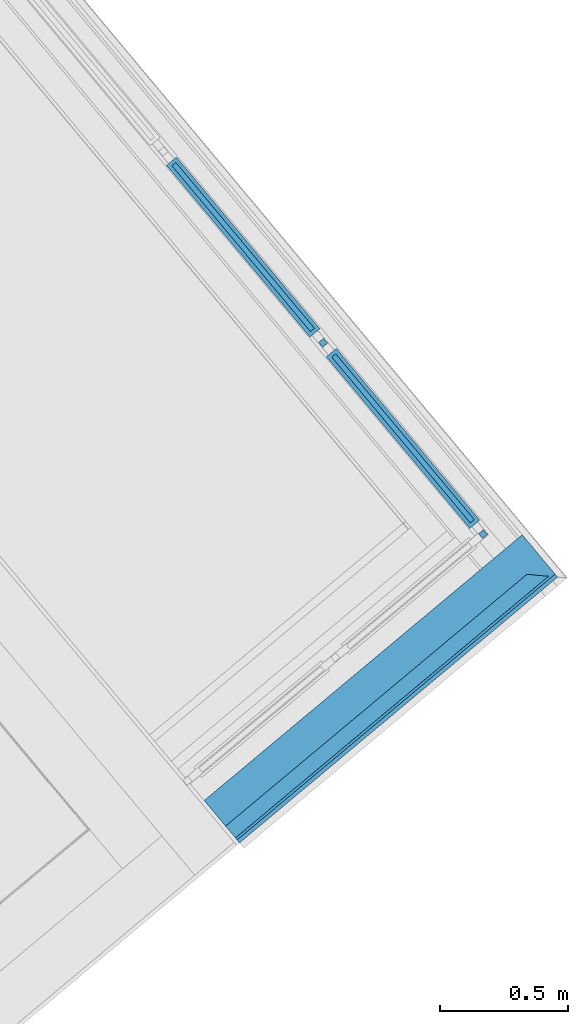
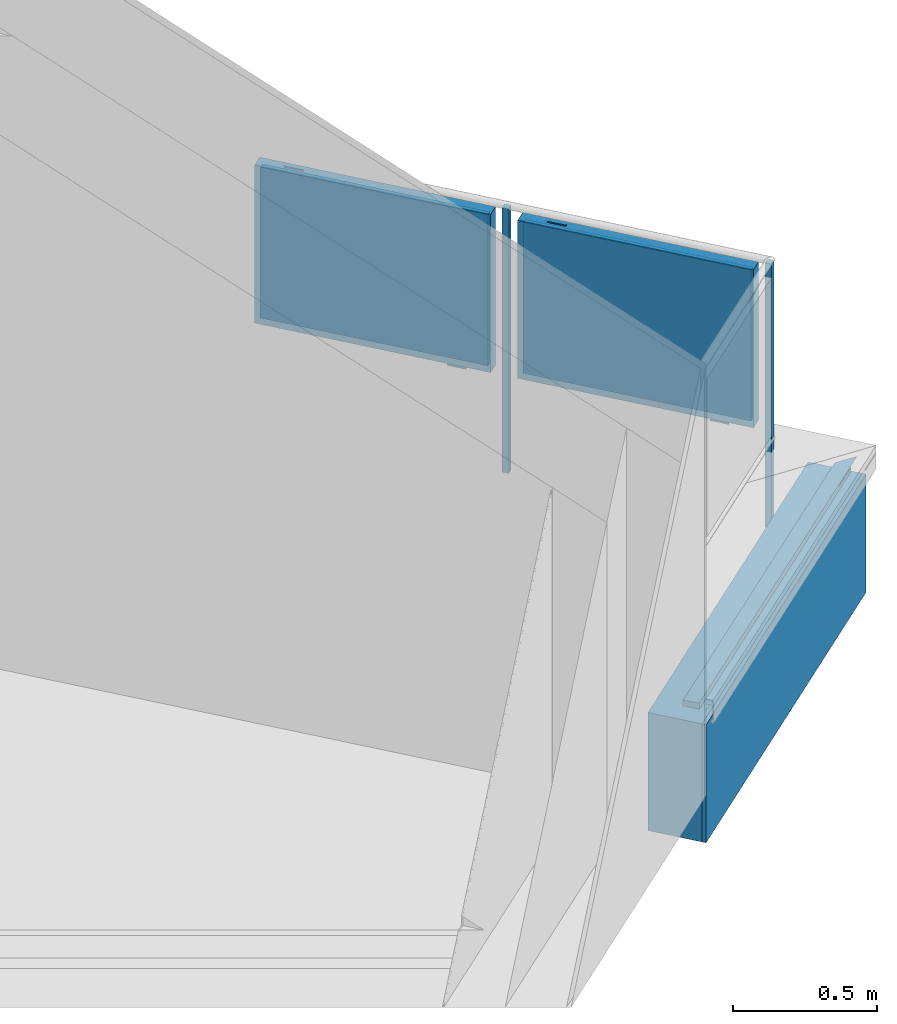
# One storey, part 33 of 61: 9 building element parts, 2 elements without a shape of their own.
"""IFC4 building model written with IfcOpenShell, lengths in metres."""

from ifc_helpers import new_model, entity, si_unit, converted_unit, derived_unit, direction, frame, origin_with_axes, place, context, subcontext, project, spatial, polygons, material, type_object, element, aggregate, save


model = new_model("IFC4")

# Units and contexts
model_context = context("Model", 3, precision=1e-05, world=origin_with_axes(), true_north=direction((0.0, 1.0)))
body_context = subcontext(model_context, "Body", "Model", "MODEL_VIEW")
ifc_project = project(units=[si_unit("LENGTHUNIT", "METRE"), si_unit("AREAUNIT", "SQUARE_METRE"), si_unit("VOLUMEUNIT", "CUBIC_METRE"), converted_unit("PLANEANGLEUNIT", "DEGREE", entity("IfcPlaneAngleMeasure", 0.0174532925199), si_unit("PLANEANGLEUNIT", "RADIAN"), dimensions=[0, 0, 0, 0, 0, 0, 0]), converted_unit("TIMEUNIT", "Year", entity("IfcTimeMeasure", 31556926.0), si_unit("TIMEUNIT", "SECOND"), dimensions=[0, 0, 1, 0, 0, 0, 0]), si_unit("MASSUNIT", "GRAM", prefix="KILO"), si_unit("THERMODYNAMICTEMPERATUREUNIT", "DEGREE_CELSIUS"), si_unit("LUMINOUSINTENSITYUNIT", "LUMEN"), si_unit("ENERGYUNIT", "JOULE", prefix="MEGA"), derived_unit("THERMALCONDUCTANCEUNIT", [(si_unit("POWERUNIT", "WATT"), 1), (si_unit("LENGTHUNIT", "METRE"), -1), (si_unit("THERMODYNAMICTEMPERATUREUNIT", "KELVIN"), -1)]), derived_unit("SPECIFICHEATCAPACITYUNIT", [(si_unit("ENERGYUNIT", "JOULE"), 1), (si_unit("MASSUNIT", "GRAM", prefix="KILO"), -1), (si_unit("THERMODYNAMICTEMPERATUREUNIT", "KELVIN"), -1)]), derived_unit("MASSDENSITYUNIT", [(si_unit("MASSUNIT", "GRAM", prefix="KILO"), 1), (si_unit("VOLUMEUNIT", "CUBIC_METRE"), -1)])], contexts=[model_context])

# Site, building, storey
site_placement = place(None, frame((-0.00153261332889, -0.00661245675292, 0.0), z_axis=(0.0, 0.0, 1.0), x_axis=(1.0, 0.0, 0.0)))
site = spatial("IfcSite", under=ifc_project, at=site_placement, Name="Gelände", CompositionType="ELEMENT")
building_placement = place(site_placement, origin_with_axes())
building = spatial("IfcBuilding", under=site, at=building_placement, Name="Gebäude", CompositionType="ELEMENT")
storey_placement = place(building_placement, frame((0.0, 0.0, 5.7), z_axis=(0.0, 0.0, 1.0), x_axis=(1.0, 0.0, 0.0)))
storey = spatial("IfcBuildingStorey", under=building, at=storey_placement, Name="DG1", CompositionType="ELEMENT", Elevation=5.7)

# Wall, building element parts
wall_type = type_object("IfcWallType", Name="Balkon Dämmung runter 574 x 610", PredefinedType="NOTDEFINED")
wall_placement = place(storey_placement, frame((13.259988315, 20.4436832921, -0.2), z_axis=(0.0, 0.0, 1.0), x_axis=(0.767365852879, 0.641209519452, 0.0)))
wall = element("IfcWall", 1, at=wall_placement, inside=storey, type_object=wall_type, Name="Wand-004", PredefinedType="NOTDEFINED")
ifc_material_1 = material(Name="EPS 1")
building_element_part_1_placement = place(wall_placement, origin_with_axes())
building_element_part_1 = element("IfcBuildingElementPart", 2, at=building_element_part_1_placement, material=ifc_material_1, Name="EPS 1", PredefinedType="NOTDEFINED", context=body_context, shape_type="Tessellation", body=[
    polygons([(1.61511881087, -0.19999996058, 0.0), (1.61511881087, -0.19999996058, 0.500000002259), (0.0, -0.19999996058, 0.499999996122), (0.0, -0.19999996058, 0.0), (1.61511962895, -2.90217805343e-09, 0.0), (1.61511962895, -2.73518629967e-09, 0.200000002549), (1.61511962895, -2.90217805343e-09, 0.500000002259), (0.0, -2.90217805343e-09, 0.500000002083), (0.0, -2.73518807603e-09, 0.200000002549), (0.0, -2.90217805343e-09, 0.0)], [[[1, 2, 3, 4]], [[2, 1, 5, 6, 7]], [[2, 7, 8, 3]], [[4, 3, 8, 9, 10]], [[5, 1, 4, 10]], [[6, 5, 10, 9]], [[7, 6, 9, 8]]], closed=True),
])
ifc_material_2 = material(Name="Vollholz")
building_element_part_2_placement = place(wall_placement, origin_with_axes())
building_element_part_2 = element("IfcBuildingElementPart", 3, at=building_element_part_2_placement, material=ifc_material_2, Name="Vollholz", PredefinedType="NOTDEFINED", context=body_context, shape_type="Tessellation", body=[
    polygons([(1.53024385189, -0.189996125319, 0.584015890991), (1.5901037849, -0.189984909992, 0.586106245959), (0.0, -0.189984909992, 0.586106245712), (0.0, -0.190124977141, 0.560000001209), (1.53024385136, -0.190124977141, 0.560000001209), (1.53024385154, -0.19008233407, 0.567947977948), (1.53024385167, -0.190050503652, 0.573880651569), (1.53024385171, -0.190041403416, 0.575576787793), (1.53024385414, -0.190039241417, 0.575979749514), (1.47026178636, -0.190039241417, 0.575979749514), (1.41017292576, -0.190039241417, 0.575979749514), (1.41015155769, -0.190018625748, 0.579822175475), (1.47026178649, -0.190007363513, 0.581921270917), (1.53024385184, -0.190007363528, 0.581921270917), (1.53024409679, -0.130124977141, 0.584015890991), (0.0, -0.130124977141, 0.584015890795), (0.0, -0.130124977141, 0.560000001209), (1.53024409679, -0.130124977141, 0.560000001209), (1.53024409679, -0.130124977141, 0.567947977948), (1.53024409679, -0.130124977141, 0.573880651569), (1.53024409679, -0.130124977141, 0.575576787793), (1.53024409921, -0.130124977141, 0.575979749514), (1.47026203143, -0.130124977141, 0.575979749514), (1.41017317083, -0.130124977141, 0.575979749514), (1.41015180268, -0.130124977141, 0.579822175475), (1.47026203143, -0.130124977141, 0.581921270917), (1.53024409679, -0.130124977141, 0.581921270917)], [[[1, 2, 3, 4, 5, 6, 7, 8, 9, 10, 11, 12, 13, 14]], [[15, 2, 1]], [[2, 15, 16, 3]], [[16, 17, 4, 3]], [[17, 18, 5, 4]], [[5, 18, 19, 6]], [[7, 6, 19, 20]], [[21, 8, 7, 20]], [[22, 9, 8, 21]], [[10, 9, 22, 23]], [[10, 23, 24, 11]], [[11, 24, 25, 12]], [[12, 25, 26, 13]], [[14, 13, 26, 27]], [[15, 1, 14, 27]], [[18, 17, 16, 15, 27, 26, 25, 24, 23, 22, 21, 20, 19]]], closed=True),
])
ifc_material_3 = material(Name="Zementputz")
building_element_part_3_placement = place(wall_placement, origin_with_axes())
building_element_part_3 = element("IfcBuildingElementPart", 4, at=building_element_part_3_placement, material=ifc_material_3, Name="Zementputz", PredefinedType="NOTDEFINED", context=body_context, shape_type="Tessellation", body=[
    polygons([(1.61511874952, -0.214999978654, 0.0), (1.61511874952, -0.214999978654, 0.500000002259), (0.0, -0.214999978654, 0.500000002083), (0.0, -0.214999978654, 0.0), (1.61511881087, -0.19999996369, 0.0), (1.61511881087, -0.19999996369, 0.500000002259), (0.0, -0.19999996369, 0.499999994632), (0.0, -0.19999996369, 0.0)], [[[1, 2, 3, 4]], [[2, 1, 5, 6]], [[2, 6, 7, 3]], [[3, 7, 8, 4]], [[5, 1, 4, 8]], [[6, 5, 8, 7]]], closed=True),
])
aggregate(wall, [building_element_part_1, building_element_part_2, building_element_part_3])

# Space
space_placement = place(storey_placement, frame((9.89495575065, 25.0808160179, 0.22), z_axis=(0.0, 0.0, 1.0), x_axis=(-0.767365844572, -0.641209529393, 0.0)))
space = spatial("IfcSpace", under=storey, at=space_placement, CompositionType="ELEMENT", PredefinedType="NOTDEFINED")

# Railing, building element parts
railing_type = type_object("IfcRailingType", Name="Geländerart", PredefinedType="NOTDEFINED")
railing_placement = place(space_placement, frame((0.391162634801, 5.51606821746, 0.16), z_axis=(0.0, 0.0, 1.0), x_axis=(-0.767365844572, 0.641209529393, 0.0)))
railing = element("IfcRailing", 5, at=railing_placement, inside=space, type_object=railing_type, Name="Geländer - 001", PredefinedType="NOTDEFINED")
ifc_material_4 = material(Name="Aluminium")
building_element_part_4_placement = place(railing_placement, origin_with_axes())
building_element_part_4 = element("IfcBuildingElementPart", 6, at=building_element_part_4_placement, material=ifc_material_4, Name="Aluminium", PredefinedType="NOTDEFINED", context=body_context, shape_type="Tessellation", body=[
    polygons([(1.23243263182, 0.882921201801, -0.3), (1.21640523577, 0.902107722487, -0.3), (1.21640523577, 0.902107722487, 0.82), (1.23243263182, 0.882921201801, 0.82), (1.21324611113, 0.866893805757, -0.3), (1.19721871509, 0.886080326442, -0.3), (1.19721871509, 0.886080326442, 0.82), (1.21324611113, 0.866893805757, 0.82)], [[[1, 2, 3, 4]], [[1, 5, 6, 2]], [[2, 6, 7, 3]], [[4, 3, 7, 8]], [[5, 1, 4, 8]], [[6, 5, 8, 7]]], closed=True),
])
ifc_material_5 = material(Name="Profilit")
building_element_part_5_placement = place(railing_placement, origin_with_axes())
building_element_part_5 = element("IfcBuildingElementPart", 7, at=building_element_part_5_placement, material=ifc_material_5, Name="Profilit", PredefinedType="NOTDEFINED", context=body_context, shape_type="Tessellation", body=[
    polygons([(0.625893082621, 1.57389905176, 0.135), (1.16547924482, 0.92797408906, 0.135), (1.16547924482, 0.92797408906, 0.775), (0.625893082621, 1.57389905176, 0.775), (1.18082828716, 0.940796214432, 0.135), (0.641242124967, 1.58672117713, 0.135), (1.18082828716, 0.940796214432, 0.775), (0.641242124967, 1.58672117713, 0.775)], [[[1, 2, 3, 4]], [[5, 2, 1, 6]], [[7, 3, 2, 5]], [[4, 3, 7, 8]], [[1, 4, 8, 6]], [[7, 5, 6, 8]]], closed=True),
])
building_element_part_6_placement = place(railing_placement, origin_with_axes())
building_element_part_6 = element("IfcBuildingElementPart", 8, at=building_element_part_6_placement, material=ifc_material_4, Name="Aluminium", PredefinedType="NOTDEFINED", context=body_context, shape_type="Tessellation", body=[
    polygons([(1.11674110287, 0.998015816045, 0.12), (1.07186366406, 1.05173746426, 0.12), (1.07186366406, 1.05173746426, 0.095), (1.11674110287, 0.998015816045, 0.095), (1.12057836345, 1.00122134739, 0.12), (1.07570092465, 1.0549429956, 0.12), (1.07570092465, 1.0549429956, 0.095), (1.12057836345, 1.00122134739, 0.095)], [[[1, 2, 3, 4]], [[5, 6, 2, 1]], [[2, 6, 7, 3]], [[4, 3, 7, 8]], [[1, 4, 8, 5]], [[8, 7, 6, 5]]], closed=True),
    polygons([(0.686143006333, 1.5134739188, 0.79), (0.731020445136, 1.45975227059, 0.79), (0.731020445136, 1.45975227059, 0.795), (0.686143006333, 1.5134739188, 0.795), (0.68998026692, 1.51667945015, 0.79), (0.734857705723, 1.46295780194, 0.79), (0.734857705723, 1.46295780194, 0.795), (0.68998026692, 1.51667945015, 0.795)], [[[1, 2, 3, 4]], [[5, 6, 2, 1]], [[2, 6, 7, 3]], [[4, 3, 7, 8]], [[1, 4, 8, 5]], [[8, 7, 6, 5]]], closed=True),
    polygons([(1.20195666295, 0.938901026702, 0.12), (1.16358405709, 0.906845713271, 0.12), (0.604764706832, 1.57579423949, 0.12), (0.643137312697, 1.60784955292, 0.12), (1.18913453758, 0.954250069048, 0.14), (1.17762275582, 0.944633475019, 0.14), (1.18082828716, 0.940796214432, 0.135), (1.16547924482, 0.92797408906, 0.135), (1.16227371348, 0.931811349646, 0.14), (1.15076193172, 0.922194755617, 0.14), (0.617586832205, 1.56044519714, 0.14), (0.617586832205, 1.56044519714, 0.77), (1.15076193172, 0.922194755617, 0.77), (1.15076193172, 0.922194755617, 0.14), (1.16358405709, 0.906845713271, 0.12), (1.16358405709, 0.906845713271, 0.79), (0.604764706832, 1.57579423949, 0.79), (0.643137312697, 1.60784955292, 0.79), (1.20195666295, 0.938901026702, 0.79), (1.20195666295, 0.938901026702, 0.12), (1.18913453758, 0.954250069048, 0.14), (1.18913453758, 0.954250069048, 0.77), (0.65595943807, 1.59250051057, 0.77), (0.65595943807, 1.59250051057, 0.14), (0.64444765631, 1.58288391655, 0.14), (0.64444765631, 1.58288391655, 0.77), (1.17762275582, 0.944633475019, 0.77), (1.17762275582, 0.944633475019, 0.14), (1.18082828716, 0.940796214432, 0.135), (1.18082828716, 0.940796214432, 0.775), (0.641242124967, 1.58672117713, 0.775), (0.641242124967, 1.58672117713, 0.135), (0.625893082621, 1.57389905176, 0.135), (0.625893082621, 1.57389905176, 0.775), (1.16547924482, 0.92797408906, 0.775), (1.16547924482, 0.92797408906, 0.135), (1.16227371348, 0.931811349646, 0.14), (1.16227371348, 0.931811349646, 0.77), (0.629098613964, 1.57006179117, 0.77), (0.629098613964, 1.57006179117, 0.14)], [[[1, 2, 3, 4]], [[1, 5, 6, 7, 8, 9, 10, 2]], [[2, 10, 11, 12, 13, 14, 15, 16, 17, 3]], [[4, 3, 17, 18]], [[5, 1, 4, 18, 19, 20, 21, 22, 23, 24]], [[6, 5, 24, 25]], [[7, 6, 25, 26, 27, 28, 29, 30, 31, 32]], [[8, 7, 32, 33]], [[9, 8, 33, 34, 35, 36, 37, 38, 39, 40]], [[10, 9, 40, 11]], [[11, 40, 39, 12]], [[12, 39, 38, 13]], [[13, 38, 37, 14]], [[20, 15, 14, 37, 36, 29, 28, 21]], [[19, 16, 15, 20]], [[18, 17, 16, 19]], [[27, 22, 21, 28]], [[26, 23, 22, 27]], [[25, 24, 23, 26]], [[35, 30, 29, 36]], [[34, 31, 30, 35]], [[33, 32, 31, 34]]], closed=True),
])
building_element_part_7_placement = place(railing_placement, origin_with_axes())
building_element_part_7 = element("IfcBuildingElementPart", 9, at=building_element_part_7_placement, material=ifc_material_4, Name="Aluminium", PredefinedType="NOTDEFINED", context=body_context, shape_type="Tessellation", body=[
    polygons([(0.593475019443, 1.64780148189, -0.3), (0.57428871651, 1.63177382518, -0.3), (0.57428871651, 1.63177382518, 0.82), (0.593475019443, 1.64780148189, 0.82), (0.609502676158, 1.62861517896, -0.3), (0.590316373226, 1.61258752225, -0.3), (0.590316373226, 1.61258752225, 0.82), (0.609502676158, 1.62861517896, 0.82)], [[[1, 2, 3, 4]], [[1, 5, 6, 2]], [[2, 6, 7, 3]], [[4, 3, 7, 8]], [[5, 1, 4, 8]], [[6, 5, 8, 7]]], closed=True),
])
building_element_part_8_placement = place(railing_placement, origin_with_axes())
building_element_part_8 = element("IfcBuildingElementPart", 10, at=building_element_part_8_placement, material=ifc_material_5, Name="Profilit", PredefinedType="NOTDEFINED", context=body_context, shape_type="Tessellation", body=[
    polygons([(0.00296310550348, 2.31959278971, 0.135), (0.542549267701, 1.67366782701, 0.135), (0.542549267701, 1.67366782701, 0.775), (0.00296310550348, 2.31959278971, 0.775), (0.557898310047, 1.68648995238, 0.135), (0.0183121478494, 2.33241491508, 0.135), (0.557898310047, 1.68648995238, 0.775), (0.0183121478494, 2.33241491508, 0.775)], [[[1, 2, 3, 4]], [[5, 2, 1, 6]], [[7, 3, 2, 5]], [[4, 3, 7, 8]], [[1, 4, 8, 6]], [[7, 5, 6, 8]]], closed=True),
])
building_element_part_9_placement = place(railing_placement, origin_with_axes())
building_element_part_9 = element("IfcBuildingElementPart", 11, at=building_element_part_9_placement, material=ifc_material_4, Name="Aluminium", PredefinedType="NOTDEFINED", context=body_context, shape_type="Tessellation", body=[
    polygons([(0.493811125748, 1.74370955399, 0.12), (0.448933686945, 1.7974312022, 0.12), (0.448933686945, 1.7974312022, 0.095), (0.493811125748, 1.74370955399, 0.095), (0.497648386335, 1.74691508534, 0.12), (0.452770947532, 1.80063673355, 0.12), (0.452770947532, 1.80063673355, 0.095), (0.497648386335, 1.74691508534, 0.095)], [[[1, 2, 3, 4]], [[5, 6, 2, 1]], [[2, 6, 7, 3]], [[4, 3, 7, 8]], [[1, 4, 8, 5]], [[8, 7, 6, 5]]], closed=True),
    polygons([(0.0632130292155, 2.25916765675, 0.79), (0.108090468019, 2.20544600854, 0.79), (0.108090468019, 2.20544600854, 0.795), (0.0632130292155, 2.25916765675, 0.795), (0.067050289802, 2.2623731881, 0.79), (0.111927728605, 2.20865153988, 0.79), (0.111927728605, 2.20865153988, 0.795), (0.067050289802, 2.2623731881, 0.795)], [[[1, 2, 3, 4]], [[5, 6, 2, 1]], [[2, 6, 7, 3]], [[4, 3, 7, 8]], [[1, 4, 8, 5]], [[8, 7, 6, 5]]], closed=True),
    polygons([(0.579026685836, 1.68459476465, 0.12), (0.540654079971, 1.65253945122, 0.12), (-0.0181652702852, 2.32148797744, 0.12), (0.0202073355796, 2.35354329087, 0.12), (0.566204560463, 1.699943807, 0.14), (0.554692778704, 1.69032721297, 0.14), (0.557898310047, 1.68648995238, 0.135), (0.542549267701, 1.67366782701, 0.135), (0.539343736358, 1.67750508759, 0.14), (0.527831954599, 1.66788849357, 0.14), (-0.00534314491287, 2.30613893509, 0.14), (-0.00534314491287, 2.30613893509, 0.77), (0.527831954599, 1.66788849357, 0.77), (0.527831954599, 1.66788849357, 0.14), (0.540654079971, 1.65253945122, 0.12), (0.540654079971, 1.65253945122, 0.79), (-0.0181652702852, 2.32148797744, 0.79), (0.0202073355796, 2.35354329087, 0.79), (0.579026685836, 1.68459476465, 0.79), (0.579026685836, 1.68459476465, 0.12), (0.566204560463, 1.699943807, 0.14), (0.566204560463, 1.699943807, 0.77), (0.0330294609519, 2.33819424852, 0.77), (0.0330294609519, 2.33819424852, 0.14), (0.0215176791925, 2.32857765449, 0.14), (0.0215176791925, 2.32857765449, 0.77), (0.554692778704, 1.69032721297, 0.77), (0.554692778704, 1.69032721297, 0.14), (0.557898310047, 1.68648995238, 0.135), (0.557898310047, 1.68648995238, 0.775), (0.0183121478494, 2.33241491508, 0.775), (0.0183121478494, 2.33241491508, 0.135), (0.00296310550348, 2.31959278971, 0.135), (0.00296310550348, 2.31959278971, 0.775), (0.542549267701, 1.67366782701, 0.775), (0.542549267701, 1.67366782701, 0.135), (0.539343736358, 1.67750508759, 0.14), (0.539343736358, 1.67750508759, 0.77), (0.00616863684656, 2.31575552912, 0.77), (0.00616863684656, 2.31575552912, 0.14)], [[[1, 2, 3, 4]], [[1, 5, 6, 7, 8, 9, 10, 2]], [[2, 10, 11, 12, 13, 14, 15, 16, 17, 3]], [[4, 3, 17, 18]], [[5, 1, 4, 18, 19, 20, 21, 22, 23, 24]], [[6, 5, 24, 25]], [[7, 6, 25, 26, 27, 28, 29, 30, 31, 32]], [[8, 7, 32, 33]], [[9, 8, 33, 34, 35, 36, 37, 38, 39, 40]], [[10, 9, 40, 11]], [[11, 40, 39, 12]], [[12, 39, 38, 13]], [[13, 38, 37, 14]], [[20, 15, 14, 37, 36, 29, 28, 21]], [[19, 16, 15, 20]], [[18, 17, 16, 19]], [[27, 22, 21, 28]], [[26, 23, 22, 27]], [[25, 24, 23, 26]], [[35, 30, 29, 36]], [[34, 31, 30, 35]], [[33, 32, 31, 34]]], closed=True),
])
aggregate(railing, [building_element_part_4, building_element_part_5, building_element_part_6, building_element_part_7, building_element_part_8, building_element_part_9])

save(model, "model.ifc")
